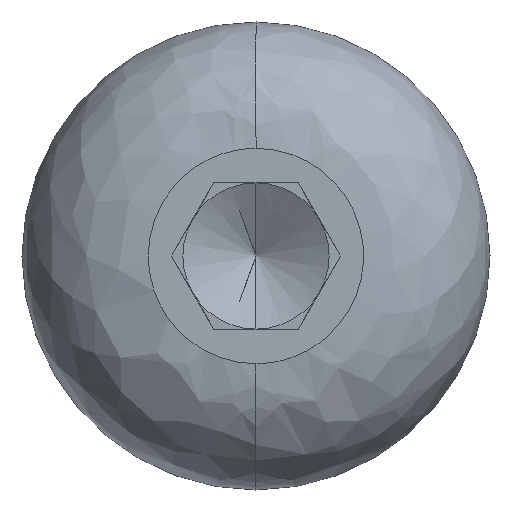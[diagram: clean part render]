
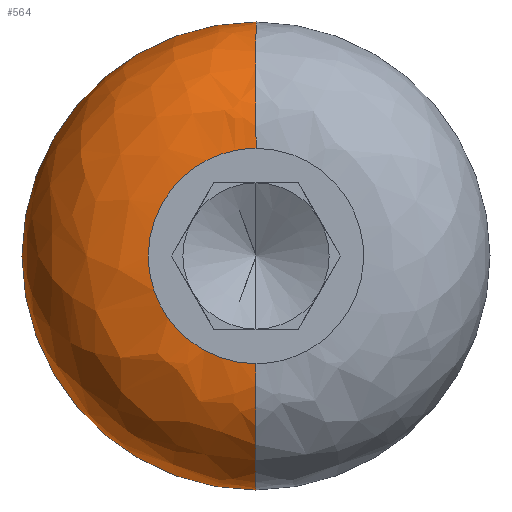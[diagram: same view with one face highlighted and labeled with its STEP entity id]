
A CAD part, left-side view. The second image highlights one B-rep face of the part: STEP entity #564.
In plain terms, the highlighted free-form (B-spline) face has degree [3, 3] with [4, 4] control points.
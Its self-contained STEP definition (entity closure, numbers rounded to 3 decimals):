
#24 = CARTESIAN_POINT ( 'NONE',  ( 0., 0., -3.68 ) ) ;
#36 = CARTESIAN_POINT ( 'NONE',  ( 4.32, 0., 0. ) ) ;
#62 = AXIS2_PLACEMENT_3D ( 'NONE', #36, #787, #784 ) ;
#63 = AXIS2_PLACEMENT_3D ( 'NONE', #631, #630, #629 ) ;
#86 = VERTEX_POINT ( 'NONE', #198 ) ;
#89 = CARTESIAN_POINT ( 'NONE',  ( 0., 3.68, 2.156 ) ) ;
#93 = CARTESIAN_POINT ( 'NONE',  ( 4.32, 0., -8. ) ) ;
#95 = CARTESIAN_POINT ( 'NONE',  ( 4.32, 16., -8. ) ) ;
#97 = CARTESIAN_POINT ( 'NONE',  ( 4.32, 16., 8. ) ) ;
#98 = CARTESIAN_POINT ( 'NONE',  ( 4.32, 0., 8. ) ) ;
#99 = FACE_OUTER_BOUND ( 'NONE', #135, .T. ) ;
#100 = CARTESIAN_POINT ( 'NONE',  ( 1.789, 0., -8. ) ) ;
#106 = CARTESIAN_POINT ( 'NONE',  ( 1.789, 16., -8. ) ) ;
#109 = CARTESIAN_POINT ( 'NONE',  ( 1.789, 16., 8. ) ) ;
#111 = CARTESIAN_POINT ( 'NONE',  ( 1.789, 0., 8. ) ) ;
#112 = CARTESIAN_POINT ( 'NONE',  ( 0., 0., -6.211 ) ) ;
#114 = CARTESIAN_POINT ( 'NONE',  ( 0., 12.421, -6.211 ) ) ;
#118 = CARTESIAN_POINT ( 'NONE',  ( 0., 12.421, 6.211 ) ) ;
#121 = CARTESIAN_POINT ( 'NONE',  ( 0., 0., 6.211 ) ) ;
#124 = CARTESIAN_POINT ( 'NONE',  ( 0., 0., -3.68 ) ) ;
#128 = CARTESIAN_POINT ( 'NONE',  ( 0., 7.36, -3.68 ) ) ;
#135 = EDGE_LOOP ( 'NONE', ( #416, #428, #439, #441, #451 ) ) ;
#138 = EDGE_CURVE ( 'NONE', #461, #174, #437, .T. ) ;
#140 = CARTESIAN_POINT ( 'NONE',  ( 0., 3.68, 0. ) ) ;
#142 = CARTESIAN_POINT ( 'NONE',  ( 0., 7.36, 3.68 ) ) ;
#150 = EDGE_CURVE ( 'NONE', #86, #762, #385, .T. ) ;
#155 = CARTESIAN_POINT ( 'NONE',  ( 0., 0., -3.68 ) ) ;
#160 = CARTESIAN_POINT ( 'NONE',  ( 0., 0., 3.68 ) ) ;
#172 = CARTESIAN_POINT ( 'NONE',  ( 0., 0., 3.68 ) ) ;
#174 = VERTEX_POINT ( 'NONE', #778 ) ;
#198 = CARTESIAN_POINT ( 'NONE',  ( 0., 3.68, 0. ) ) ;
#235 = CIRCLE ( 'NONE', #300, 4.32 ) ;
#276 = EDGE_CURVE ( 'NONE', #762, #174, #401, .T. ) ;
#300 = AXIS2_PLACEMENT_3D ( 'NONE', #582, #578, #575 ) ;
#302 = CARTESIAN_POINT ( 'NONE',  ( 0., 3.68, 0. ) ) ;
#311 = EDGE_CURVE ( 'NONE', #538, #461, #235, .T. ) ;
#316 =( BOUNDED_CURVE ( )  B_SPLINE_CURVE ( 3, ( #24, #389, #694, #302 ),
 .UNSPECIFIED., .F., .F. ) 
 B_SPLINE_CURVE_WITH_KNOTS ( ( 4, 4 ),
 ( 0., 1. ),
 .UNSPECIFIED. ) 
 CURVE ( )  GEOMETRIC_REPRESENTATION_ITEM ( )  RATIONAL_B_SPLINE_CURVE ( ( 1., 0.805, 0.805, 1. ) ) 
 REPRESENTATION_ITEM ( '' )  );
#320 = CARTESIAN_POINT ( 'NONE',  ( 4.32, 0., -8. ) ) ;
#385 =( BOUNDED_CURVE ( )  B_SPLINE_CURVE ( 3, ( #140, #89, #774, #773 ),
 .UNSPECIFIED., .F., .T. ) 
 B_SPLINE_CURVE_WITH_KNOTS ( ( 4, 4 ),
 ( 0., 1. ),
 .UNSPECIFIED. ) 
 CURVE ( )  GEOMETRIC_REPRESENTATION_ITEM ( )  RATIONAL_B_SPLINE_CURVE ( ( 1., 0.805, 0.805, 1. ) ) 
 REPRESENTATION_ITEM ( '' )  );
#389 = CARTESIAN_POINT ( 'NONE',  ( 0., 2.156, -3.68 ) ) ;
#401 = CIRCLE ( 'NONE', #63, 4.32 ) ;
#416 = ORIENTED_EDGE ( 'NONE', *, *, #311, .F. ) ;
#428 = ORIENTED_EDGE ( 'NONE', *, *, #703, .T. ) ;
#437 = CIRCLE ( 'NONE', #62, 8. ) ;
#439 = ORIENTED_EDGE ( 'NONE', *, *, #150, .T. ) ;
#441 = ORIENTED_EDGE ( 'NONE', *, *, #276, .T. ) ;
#451 = ORIENTED_EDGE ( 'NONE', *, *, #138, .F. ) ;
#461 = VERTEX_POINT ( 'NONE', #320 ) ;
#508 =( BOUNDED_SURFACE ( )  B_SPLINE_SURFACE ( 3, 3, ( 
 ( #160, #142, #128, #124 ),
 ( #121, #118, #114, #112 ),
 ( #111, #109, #106, #100 ),
 ( #98, #97, #95, #93 ) ),
 .UNSPECIFIED., .F., .F., .F. ) 
 B_SPLINE_SURFACE_WITH_KNOTS ( ( 4, 4 ),
 ( 4, 4 ),
 ( 0., 1. ),
 ( 0., 1. ),
 .UNSPECIFIED. ) 
 GEOMETRIC_REPRESENTATION_ITEM ( )  RATIONAL_B_SPLINE_SURFACE ( (
 ( 1., 0.333, 0.333, 1.),
 ( 0.805, 0.268, 0.268, 0.805),
 ( 0.805, 0.268, 0.268, 0.805),
 ( 1., 0.333, 0.333, 1.) ) ) 
 REPRESENTATION_ITEM ( '' )  SURFACE ( )  );
#538 = VERTEX_POINT ( 'NONE', #155 ) ;
#564 = ADVANCED_FACE ( 'NONE', ( #99 ), #508, .T. ) ;
#575 = DIRECTION ( 'NONE',  ( 0., 0., -1. ) ) ;
#578 = DIRECTION ( 'NONE',  ( 0., -1., 0. ) ) ;
#582 = CARTESIAN_POINT ( 'NONE',  ( 4.32, 0., -3.68 ) ) ;
#629 = DIRECTION ( 'NONE',  ( 0., 0., 1. ) ) ;
#630 = DIRECTION ( 'NONE',  ( 0., 1., 0. ) ) ;
#631 = CARTESIAN_POINT ( 'NONE',  ( 4.32, 0., 3.68 ) ) ;
#694 = CARTESIAN_POINT ( 'NONE',  ( 0., 3.68, -2.156 ) ) ;
#703 = EDGE_CURVE ( 'NONE', #538, #86, #316, .T. ) ;
#762 = VERTEX_POINT ( 'NONE', #172 ) ;
#773 = CARTESIAN_POINT ( 'NONE',  ( 0., 0., 3.68 ) ) ;
#774 = CARTESIAN_POINT ( 'NONE',  ( 0., 2.156, 3.68 ) ) ;
#778 = CARTESIAN_POINT ( 'NONE',  ( 4.32, 0., 8. ) ) ;
#784 = DIRECTION ( 'NONE',  ( 0., 0., 1. ) ) ;
#787 = DIRECTION ( 'NONE',  ( 1., 0., 0. ) ) ;
